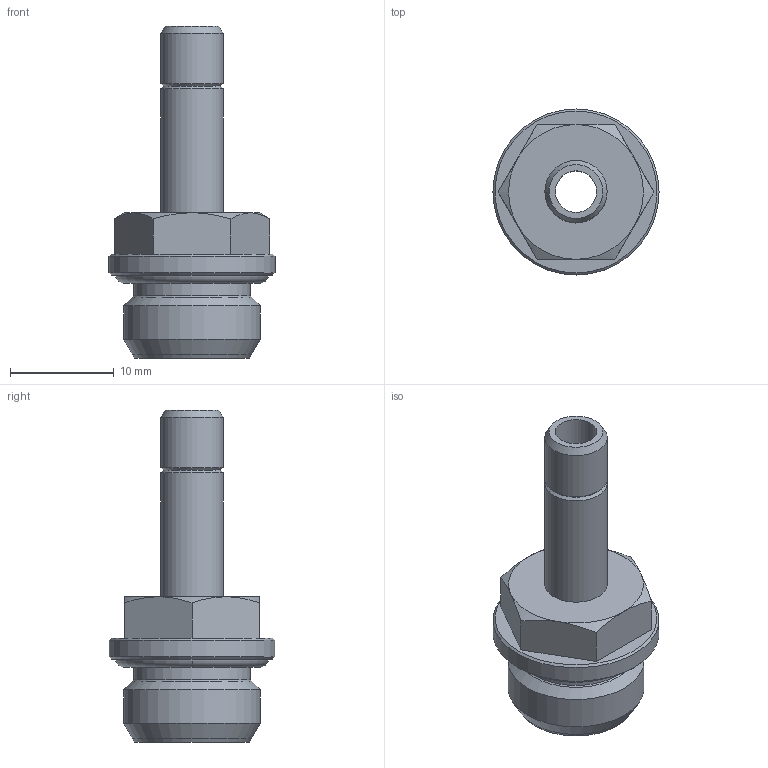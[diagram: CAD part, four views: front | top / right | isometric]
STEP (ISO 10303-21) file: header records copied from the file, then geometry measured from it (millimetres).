
FILE_DESCRIPTION(('Bauteilbeschreibung','HiCAD-Model','HiCAD-STEP-TRANSLATION','Bauteilbeschreibung'),'2;1');
FILE_NAME('B:/ABGLEICH/ZEICHNUNGEN/STEP FÜR INTERNET/STEP/IPSO 06/200608_IPSO_06_6_1-4.STP','2012-03-01T09:43:58+00:00',('Konstrukteur'),('Konstrukteur Firma GmbH'),' HiCAD neXt 2008, Step 3.1.1401.2J ','HiCAD neXt 2008','confidential');
FILE_SCHEMA(('AUTOMOTIVE_DESIGN { 1 2 10303 214 0 1 1 1 }'));
Length unit declared in the file: millimetre
Products named in the file (5): A00608_IPSO_06_6_1_4; A00608; A006080; G 1_4; OR 11_11X1_78
Assembly tree (4 placements, depth 3):
  A00608_IPSO_06_6_1_4
    A00608
    A006080
      G 1_4
    OR 11_11X1_78
Bounding box: 16 x 16 x 32 mm (x, y, z)
Volume: 1681.4 mm3; surface area: 2508.5 mm2
Topology: 3 solids, 3 shells, 45 faces, 96 edges, 57 vertices
Faces by surface type: cone 18, plane 12, cylinder 9, torus 6
Full cylindrical faces by diameter (mm): 4 x1, 6 x2, 7.5 x1, 11.2 x1, 11.445 x2, 13.157 x1, 16 x1
Entity records: 1444 total; most frequent: DIRECTION 202, CARTESIAN_POINT 193, ORIENTED_EDGE 132, AXIS2_PLACEMENT_3D 95, EDGE_LOOP 74, EDGE_CURVE 66, COLOUR_RGB 61, PRESENTATION_STYLE_ASSIGNMENT 61
